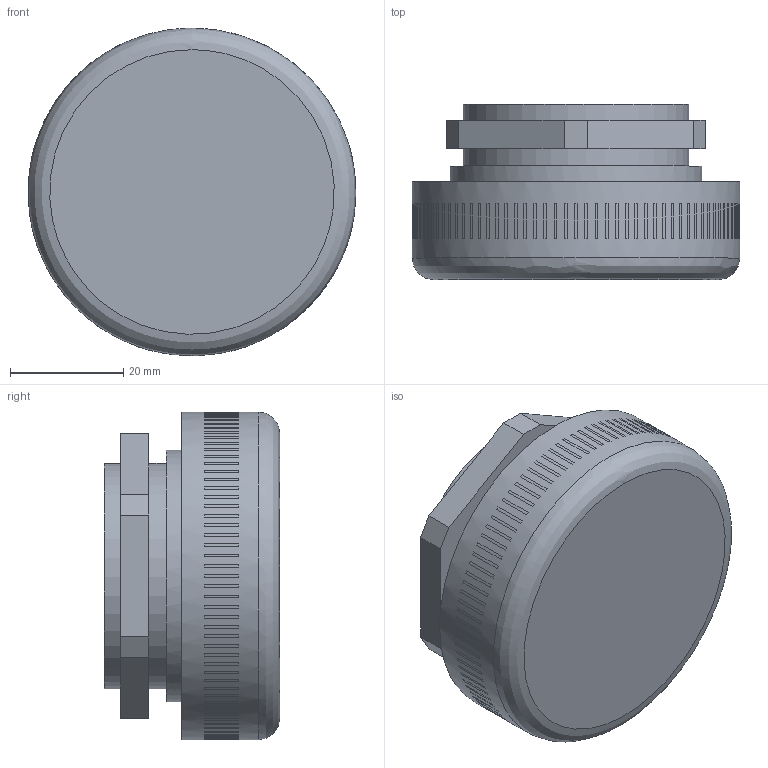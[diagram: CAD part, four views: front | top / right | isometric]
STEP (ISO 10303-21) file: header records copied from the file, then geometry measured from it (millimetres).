
FILE_DESCRIPTION((''),'2;1');
FILE_NAME('D:\scratch\ideas\stego_pcd_316ss_apcdss6.stp', '2006-07-25T06:30:37',('User'),('SDRC'),'I-DEAS Master Series 9','UNIX', 'Yes');
FILE_SCHEMA(('AUTOMOTIVE_DESIGN { 1 0 10303 214 0 1 1 1 }'));
Length unit declared in the file: inch
Products named in the file (3): 16457; stego_pcd_ss; nut_ss
Assembly tree (2 placements, depth 2):
  16457
    stego_pcd_ss
    nut_ss
Bounding box: 57.91 x 30.99 x 57.91 mm (x, y, z)
Volume: 52610.2 mm3; surface area: 14606.6 mm2
Topology: 2 solids, 2 shells, 127 faces, 463 edges, 449 vertices
Faces by surface type: bspline 127
Entity records: 5348 total; most frequent: CARTESIAN_POINT 2272, ORIENTED_EDGE 918, EDGE_CURVE 459, VERTEX_POINT 439, EDGE_LOOP 232, B_SPLINE_CURVE_WITH_KNOTS 221, FACE_OUTER_BOUND 127, ADVANCED_FACE 127
